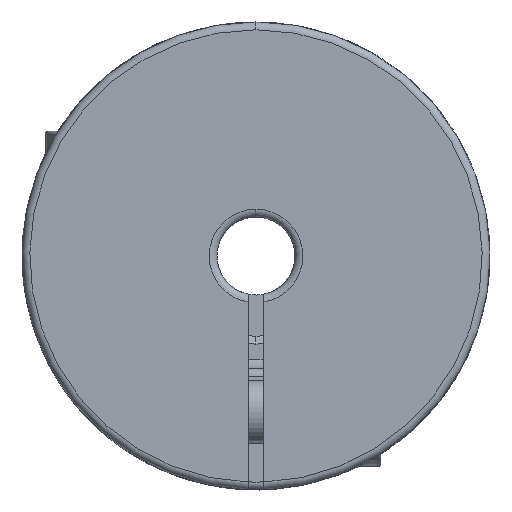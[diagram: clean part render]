
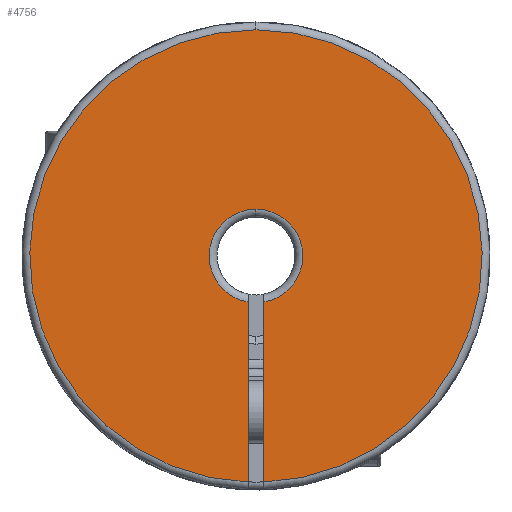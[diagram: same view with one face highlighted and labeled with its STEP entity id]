
A CAD part, front view. The second image highlights one B-rep face of the part: STEP entity #4756.
In plain terms, the highlighted planar face has unit normal (0, -1, 0) as drawn and (-1, 0, 0) by its records, which use the part's own axes.
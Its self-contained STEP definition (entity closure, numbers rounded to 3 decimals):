
#173 = ORIENTED_EDGE ( 'NONE', *, *, #6905, .T. ) ;
#212 = VERTEX_POINT ( 'NONE', #5426 ) ;
#357 = ORIENTED_EDGE ( 'NONE', *, *, #3618, .T. ) ;
#542 = VERTEX_POINT ( 'NONE', #4110 ) ;
#733 = AXIS2_PLACEMENT_3D ( 'NONE', #4553, #1253, #8187 ) ;
#769 = CARTESIAN_POINT ( 'NONE',  ( -11.25, 2.958, -0.5 ) ) ;
#1253 = DIRECTION ( 'NONE',  ( 1., 0., 0. ) ) ;
#1308 = LINE ( 'NONE', #4413, #1369 ) ;
#1369 = VECTOR ( 'NONE', #3896, 1000. ) ;
#2163 = CIRCLE ( 'NONE', #6828, 3. ) ;
#2312 = AXIS2_PLACEMENT_3D ( 'NONE', #3666, #3169, #2560 ) ;
#2480 = DIRECTION ( 'NONE',  ( 0., -1., 0. ) ) ;
#2560 = DIRECTION ( 'NONE',  ( 0., -1., 0. ) ) ;
#2573 = CIRCLE ( 'NONE', #3228, 3. ) ;
#2643 = AXIS2_PLACEMENT_3D ( 'NONE', #4255, #6096, #2480 ) ;
#2687 = CARTESIAN_POINT ( 'NONE',  ( -11.25, -14.5, 0. ) ) ;
#2850 = EDGE_CURVE ( 'NONE', #3899, #542, #2163, .T. ) ;
#2910 = VERTEX_POINT ( 'NONE', #8107 ) ;
#2974 = CIRCLE ( 'NONE', #2312, 14.5 ) ;
#3169 = DIRECTION ( 'NONE',  ( -1., 0., 0. ) ) ;
#3228 = AXIS2_PLACEMENT_3D ( 'NONE', #4445, #5143, #6362 ) ;
#3264 = PLANE ( 'NONE',  #733 ) ;
#3618 = EDGE_CURVE ( 'NONE', #3899, #212, #7127, .T. ) ;
#3666 = CARTESIAN_POINT ( 'NONE',  ( -11.25, 0., 0. ) ) ;
#3859 = ORIENTED_EDGE ( 'NONE', *, *, #7456, .T. ) ;
#3896 = DIRECTION ( 'NONE',  ( 0., -1., 0. ) ) ;
#3899 = VERTEX_POINT ( 'NONE', #769 ) ;
#3910 = DIRECTION ( 'NONE',  ( 0., 1., 0. ) ) ;
#4110 = CARTESIAN_POINT ( 'NONE',  ( -11.25, -3., 0. ) ) ;
#4164 = CARTESIAN_POINT ( 'NONE',  ( -11.25, 0., 0. ) ) ;
#4255 = CARTESIAN_POINT ( 'NONE',  ( -11.25, 0., 0. ) ) ;
#4413 = CARTESIAN_POINT ( 'NONE',  ( -11.25, 16., 0.5 ) ) ;
#4445 = CARTESIAN_POINT ( 'NONE',  ( -11.25, 0., 0. ) ) ;
#4497 = EDGE_CURVE ( 'NONE', #542, #6617, #2573, .T. ) ;
#4553 = CARTESIAN_POINT ( 'NONE',  ( -11.25, 14.5, 0. ) ) ;
#4677 = CARTESIAN_POINT ( 'NONE',  ( -11.25, 2.958, 0.5 ) ) ;
#4756 = ADVANCED_FACE ( 'NONE', ( #6319 ), #3264, .F. ) ;
#4846 = DIRECTION ( 'NONE',  ( -1., 0., 0. ) ) ;
#4874 = VERTEX_POINT ( 'NONE', #2687 ) ;
#4959 = VECTOR ( 'NONE', #3910, 1000. ) ;
#5046 = EDGE_CURVE ( 'NONE', #212, #4874, #2974, .T. ) ;
#5143 = DIRECTION ( 'NONE',  ( -1., 0., 0. ) ) ;
#5146 = ORIENTED_EDGE ( 'NONE', *, *, #4497, .F. ) ;
#5332 = CARTESIAN_POINT ( 'NONE',  ( -11.25, 16., -0.5 ) ) ;
#5426 = CARTESIAN_POINT ( 'NONE',  ( -11.25, 14.491, -0.5 ) ) ;
#5841 = ORIENTED_EDGE ( 'NONE', *, *, #2850, .F. ) ;
#5963 = ORIENTED_EDGE ( 'NONE', *, *, #5046, .T. ) ;
#6096 = DIRECTION ( 'NONE',  ( -1., 0., 0. ) ) ;
#6138 = DIRECTION ( 'NONE',  ( 0., -1., 0. ) ) ;
#6319 = FACE_OUTER_BOUND ( 'NONE', #7281, .T. ) ;
#6362 = DIRECTION ( 'NONE',  ( 0., -1., 0. ) ) ;
#6617 = VERTEX_POINT ( 'NONE', #4677 ) ;
#6828 = AXIS2_PLACEMENT_3D ( 'NONE', #4164, #4846, #6138 ) ;
#6905 = EDGE_CURVE ( 'NONE', #4874, #2910, #7429, .T. ) ;
#7127 = LINE ( 'NONE', #5332, #4959 ) ;
#7281 = EDGE_LOOP ( 'NONE', ( #5963, #173, #3859, #5146, #5841, #357 ) ) ;
#7429 = CIRCLE ( 'NONE', #2643, 14.5 ) ;
#7456 = EDGE_CURVE ( 'NONE', #2910, #6617, #1308, .T. ) ;
#8107 = CARTESIAN_POINT ( 'NONE',  ( -11.25, 14.491, 0.5 ) ) ;
#8187 = DIRECTION ( 'NONE',  ( 0., 1., 0. ) ) ;
